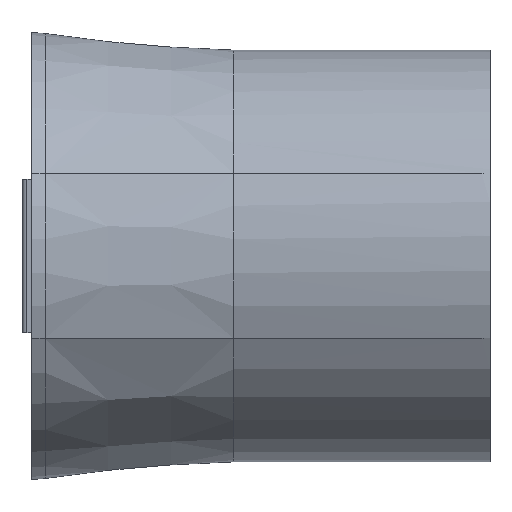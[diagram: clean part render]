
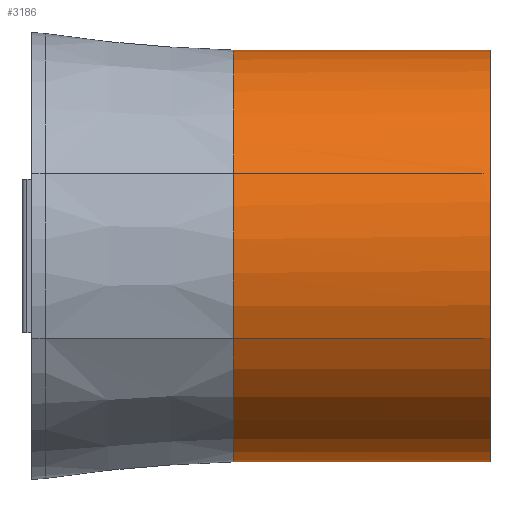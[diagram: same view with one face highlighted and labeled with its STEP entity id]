
A CAD part, front view. The second image highlights one B-rep face of the part: STEP entity #3186.
In plain terms, the highlighted cylindrical face has radius 12.5 mm (diameter 25 mm), a full revolution.
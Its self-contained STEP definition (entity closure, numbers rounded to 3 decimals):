
#98=FACE_BOUND('',#1236,.T.);
#126=CYLINDRICAL_SURFACE('',#3421,12.5);
#136=LINE('',#4224,#472);
#148=LINE('',#4248,#484);
#189=LINE('',#4400,#525);
#195=LINE('',#4415,#531);
#472=VECTOR('',#3452,10.);
#484=VECTOR('',#3466,10.);
#525=VECTOR('',#3601,10.);
#531=VECTOR('',#3609,10.);
#1059=FACE_OUTER_BOUND('',#1235,.T.);
#1235=EDGE_LOOP('',(#2985));
#1236=EDGE_LOOP('',(#2986,#2987,#2988,#2989,#2990,#2991,#2992,#2993));
#1241=CIRCLE('',#3212,12.5);
#1247=CIRCLE('',#3219,12.5);
#1250=CIRCLE('',#3228,12.5);
#1259=CIRCLE('',#3241,12.5);
#1311=CIRCLE('',#3407,12.5);
#1313=VERTEX_POINT('',#4196);
#1314=VERTEX_POINT('',#4198);
#1316=VERTEX_POINT('',#4204);
#1319=VERTEX_POINT('',#4209);
#1324=VERTEX_POINT('',#4220);
#1335=VERTEX_POINT('',#4247);
#1364=VERTEX_POINT('',#4313);
#1375=VERTEX_POINT('',#4350);
#1387=VERTEX_POINT('',#4399);
#1622=EDGE_CURVE('',#1314,#1313,#1241,.T.);
#1628=EDGE_CURVE('',#1316,#1319,#1247,.T.);
#1633=EDGE_CURVE('',#1313,#1324,#136,.T.);
#1645=EDGE_CURVE('',#1335,#1314,#148,.T.);
#1676=EDGE_CURVE('',#1335,#1364,#1250,.T.);
#1692=EDGE_CURVE('',#1375,#1375,#1259,.T.);
#1718=EDGE_CURVE('',#1387,#1316,#189,.T.);
#1725=EDGE_CURVE('',#1319,#1364,#195,.T.);
#2067=EDGE_CURVE('',#1387,#1324,#1311,.T.);
#2985=ORIENTED_EDGE('',*,*,#1692,.F.);
#2986=ORIENTED_EDGE('',*,*,#1633,.T.);
#2987=ORIENTED_EDGE('',*,*,#2067,.F.);
#2988=ORIENTED_EDGE('',*,*,#1718,.T.);
#2989=ORIENTED_EDGE('',*,*,#1628,.T.);
#2990=ORIENTED_EDGE('',*,*,#1725,.T.);
#2991=ORIENTED_EDGE('',*,*,#1676,.F.);
#2992=ORIENTED_EDGE('',*,*,#1645,.T.);
#2993=ORIENTED_EDGE('',*,*,#1622,.T.);
#3186=ADVANCED_FACE('',(#1059,#98),#126,.T.);
#3212=AXIS2_PLACEMENT_3D('',#4199,#3431,#3432);
#3219=AXIS2_PLACEMENT_3D('',#4211,#3445,#3446);
#3228=AXIS2_PLACEMENT_3D('',#4314,#3506,#3507);
#3241=AXIS2_PLACEMENT_3D('',#4351,#3536,#3537);
#3407=AXIS2_PLACEMENT_3D('',#5391,#4144,#4145);
#3421=AXIS2_PLACEMENT_3D('',#5423,#4184,#4185);
#3431=DIRECTION('center_axis',(1.,0.,0.));
#3432=DIRECTION('ref_axis',(0.,0.,-1.));
#3445=DIRECTION('center_axis',(1.,0.,0.));
#3446=DIRECTION('ref_axis',(0.,0.,-1.));
#3452=DIRECTION('',(-1.,0.,0.));
#3466=DIRECTION('',(1.,0.,0.));
#3506=DIRECTION('center_axis',(-1.,0.,0.));
#3507=DIRECTION('ref_axis',(0.,-1.,0.));
#3536=DIRECTION('center_axis',(1.,0.,0.));
#3537=DIRECTION('ref_axis',(0.,0.,-1.));
#3601=DIRECTION('',(1.,0.,0.));
#3609=DIRECTION('',(-1.,0.,0.));
#4144=DIRECTION('center_axis',(-1.,0.,0.));
#4145=DIRECTION('ref_axis',(0.,-1.,0.));
#4184=DIRECTION('center_axis',(-1.,0.,0.));
#4185=DIRECTION('ref_axis',(0.,-1.,0.));
#4196=CARTESIAN_POINT('',(26.5,-11.459,4.995));
#4198=CARTESIAN_POINT('',(26.5,-11.454,5.005));
#4199=CARTESIAN_POINT('Origin',(26.5,0.,0.));
#4204=CARTESIAN_POINT('',(26.5,-11.459,-4.995));
#4209=CARTESIAN_POINT('',(26.5,-11.454,-5.005));
#4211=CARTESIAN_POINT('Origin',(26.5,0.,0.));
#4220=CARTESIAN_POINT('',(11.43,-11.459,4.995));
#4224=CARTESIAN_POINT('',(19.215,-11.459,4.995));
#4247=CARTESIAN_POINT('',(11.43,-11.454,5.005));
#4248=CARTESIAN_POINT('',(19.215,-11.454,5.005));
#4313=CARTESIAN_POINT('',(11.43,-11.454,-5.005));
#4314=CARTESIAN_POINT('Origin',(11.43,0.,0.));
#4350=CARTESIAN_POINT('',(27.,12.5,0.));
#4351=CARTESIAN_POINT('Origin',(27.,0.,0.));
#4399=CARTESIAN_POINT('',(11.43,-11.459,-4.995));
#4400=CARTESIAN_POINT('',(19.215,-11.459,-4.995));
#4415=CARTESIAN_POINT('',(19.215,-11.454,-5.005));
#5391=CARTESIAN_POINT('Origin',(11.43,0.,0.));
#5423=CARTESIAN_POINT('Origin',(19.215,0.,0.));
